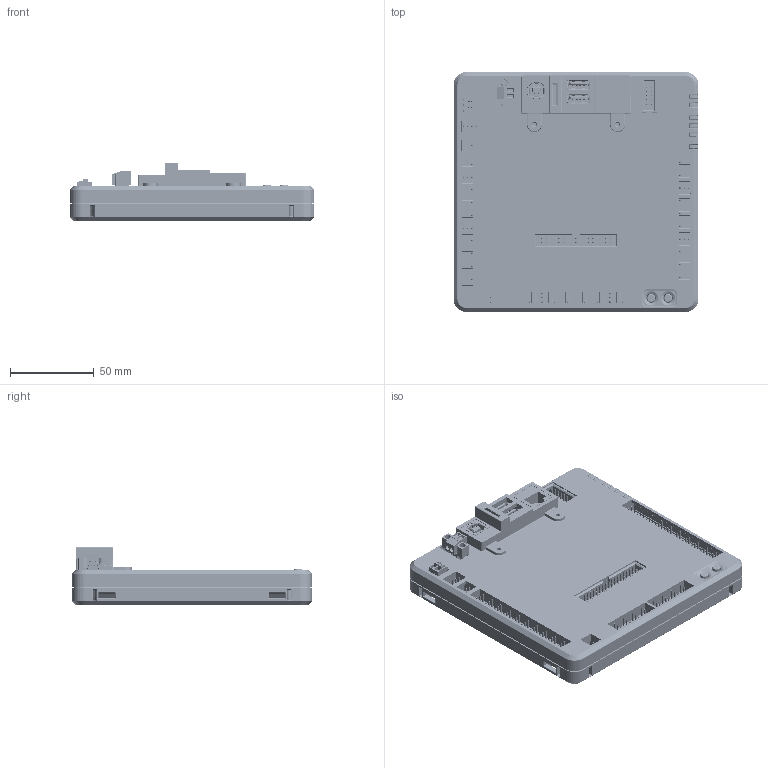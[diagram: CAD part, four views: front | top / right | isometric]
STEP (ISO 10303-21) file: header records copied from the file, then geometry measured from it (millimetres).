
FILE_DESCRIPTION(/* description */ (''),/* implementation_level */ '2;1');
FILE_NAME(/* name */ 'NI roboRIO .step',/* time_stamp */ '2022-12-29T16:11:26-08:00',/* author */ (''),/* organization */ (''),/* preprocessor_version */ 'ST-DEVELOPER v19.2',/* originating_system */ 'Autodesk Translation Framework v11.17.0.187',/* authorisation */ '');
FILE_SCHEMA (('AUTOMOTIVE_DESIGN { 1 0 10303 214 3 1 1 }'));
Products named in the file (1): NI roboRIO
Bounding box: 146.15 x 143.18 x 34.71 mm (x, y, z)
Volume: 172911.4 mm3; surface area: 182640.1 mm2
Topology: 4 solids, 4 shells, 13607 faces, 35320 edges, 21838 vertices
Faces by surface type: plane 8630, cylinder 2796, bspline 1546, torus 319, cone 158, sphere 158
Full cylindrical faces by diameter (mm): 0.7 x8, 0.89 x8, 0.9 x3, 0.914 x8, 0.92 x4, 1 x4, 1.016 x44, 1.067 x31, 1.1 x2, 1.194 x1, 1.2 x7, 1.52 x1, 1.6 x2, 1.702 x2, 1.8 x2, 2 x1, 2.156 x6, 2.3 x8, 2.5 x2, 2.6 x2, 2.8 x2, 2.9 x2, 3.2 x2, 3.251 x2, 3.85 x2, 4 x6, 4.826 x2, 5.563 x4, 8.128 x4
Entity records: 527393 total; most frequent: CARTESIAN_POINT 188231, ORIENTED_EDGE 70450, DIRECTION 64092, EDGE_CURVE 35225, LINE 25818, VECTOR 25818, VERTEX_POINT 21838, AXIS2_PLACEMENT_3D 19137
